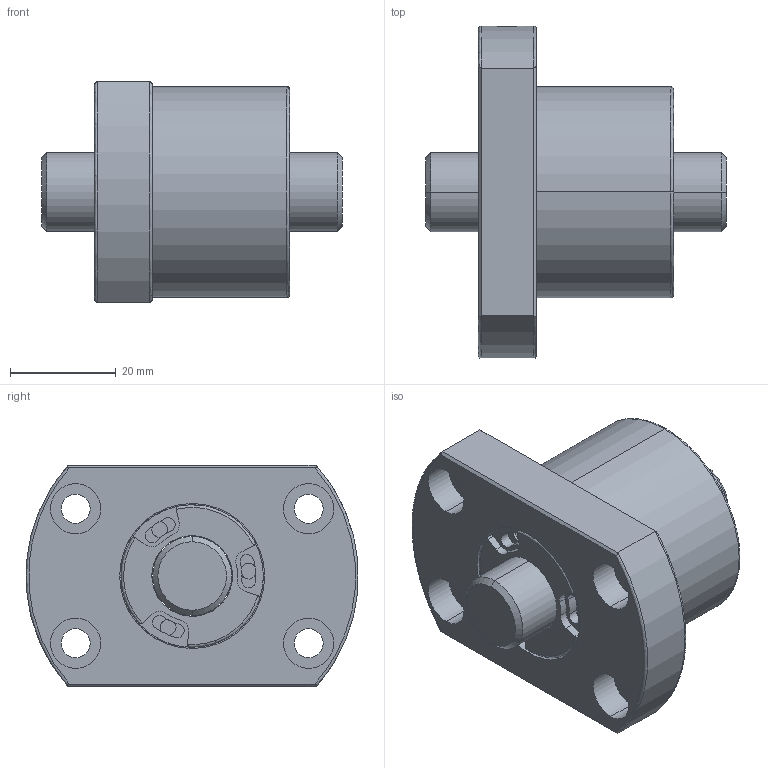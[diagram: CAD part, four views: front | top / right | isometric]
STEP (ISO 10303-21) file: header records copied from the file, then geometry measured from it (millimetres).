
FILE_DESCRIPTION (( 'STEP AP203' ), '1' );
FILE_NAME ('SFVSR01505C1D-C.STEP', '2020-06-17T03:58:02', ( '' ), ( '' ), 'SwSTEP 2.0', 'SolidWorks 2013', '' );
FILE_SCHEMA (( 'CONFIG_CONTROL_DESIGN' ));
Length unit declared in the file: millimetre
Products named in the file (1): SFVSR01505C1D-C
Bounding box: 57 x 62.94 x 42 mm (x, y, z)
Volume: 58202 mm3; surface area: 17789.1 mm2
Topology: 2 solids, 2 shells, 248 faces, 610 edges, 390 vertices
Faces by surface type: cylinder 138, plane 80, cone 16, bspline 14
Entity records: 8257 total; most frequent: CARTESIAN_POINT 2117, DIRECTION 1386, ORIENTED_EDGE 1220, EDGE_CURVE 610, AXIS2_PLACEMENT_3D 587, VERTEX_POINT 390, CIRCLE 352, EDGE_LOOP 286
